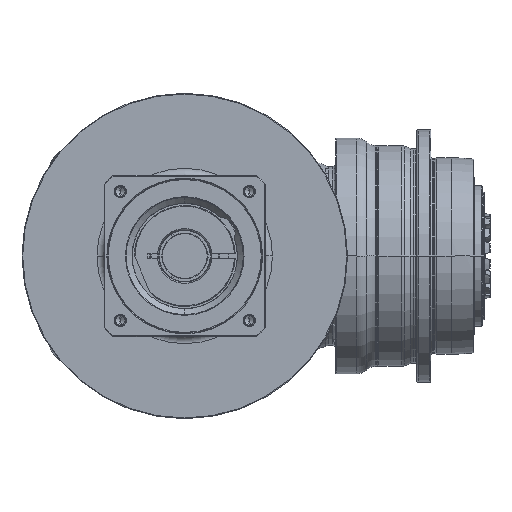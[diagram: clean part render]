
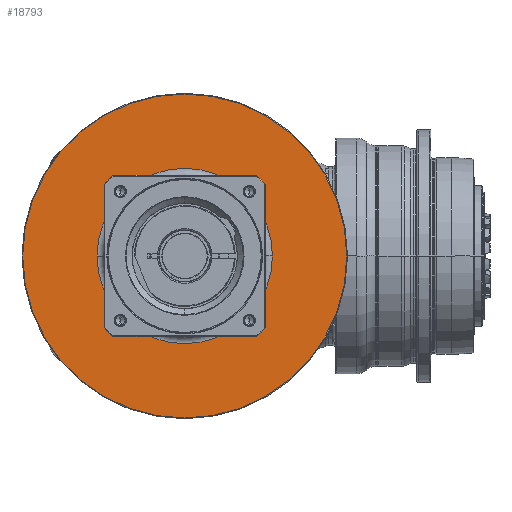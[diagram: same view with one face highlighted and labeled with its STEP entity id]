
A CAD part, front view. The second image highlights one B-rep face of the part: STEP entity #18793.
In plain terms, the highlighted planar face has unit normal (0, -1, 0) as drawn and (1, 0, 0) by its records, which use the part's own axes.
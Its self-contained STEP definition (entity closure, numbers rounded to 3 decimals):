
#18272=CARTESIAN_POINT('',(-7.5,0.,0.));
#18273=DIRECTION('',(-1.,0.,0.));
#18274=DIRECTION('',(0.,-1.,0.));
#18275=AXIS2_PLACEMENT_3D('',#18272,#18273,#18274);
#18277=CARTESIAN_POINT('',(-7.5,0.,0.));
#18278=DIRECTION('',(-1.,0.,0.));
#18279=DIRECTION('',(0.,1.,0.));
#18280=AXIS2_PLACEMENT_3D('',#18277,#18278,#18279);
#18282=CARTESIAN_POINT('',(-7.5,0.,0.));
#18283=DIRECTION('',(-1.,0.,0.));
#18284=DIRECTION('',(0.,-1.,0.));
#18285=AXIS2_PLACEMENT_3D('',#18282,#18283,#18284);
#18287=CARTESIAN_POINT('',(-7.5,0.,0.));
#18288=DIRECTION('',(-1.,0.,0.));
#18289=DIRECTION('',(0.,1.,0.));
#18290=AXIS2_PLACEMENT_3D('',#18287,#18288,#18289);
#18356=CARTESIAN_POINT('',(-7.5,-115.5,0.));
#18357=CARTESIAN_POINT('',(-7.5,115.5,0.));
#18358=VERTEX_POINT('',#18356);
#18359=VERTEX_POINT('',#18357);
#18380=CARTESIAN_POINT('',(-7.5,-62.5,0.));
#18381=CARTESIAN_POINT('',(-7.5,62.5,0.));
#18382=VERTEX_POINT('',#18380);
#18383=VERTEX_POINT('',#18381);
#18778=CARTESIAN_POINT('',(-7.5,0.,0.));
#18779=DIRECTION('',(1.,0.,0.));
#18780=DIRECTION('',(0.,-1.,0.));
#18781=AXIS2_PLACEMENT_3D('',#18778,#18779,#18780);
#18782=PLANE('',#18781);
#18783=ORIENTED_EDGE('',*,*,#18719,.T.);
#18784=ORIENTED_EDGE('',*,*,#18734,.T.);
#18785=EDGE_LOOP('',(#18783,#18784));
#18786=FACE_OUTER_BOUND('',#18785,.F.);
#18788=ORIENTED_EDGE('',*,*,#18787,.F.);
#18790=ORIENTED_EDGE('',*,*,#18789,.F.);
#18791=EDGE_LOOP('',(#18788,#18790));
#18792=FACE_BOUND('',#18791,.F.);
#18793=ADVANCED_FACE('',(#18786,#18792),#18782,.T.);
#18276=CIRCLE('',#18275,62.5);
#18281=CIRCLE('',#18280,62.5);
#18286=CIRCLE('',#18285,115.5);
#18291=CIRCLE('',#18290,115.5);
#18719=EDGE_CURVE('',#18358,#18359,#18286,.T.);
#18734=EDGE_CURVE('',#18359,#18358,#18291,.T.);
#18787=EDGE_CURVE('',#18382,#18383,#18276,.T.);
#18789=EDGE_CURVE('',#18383,#18382,#18281,.T.);
